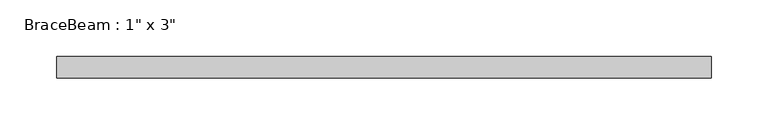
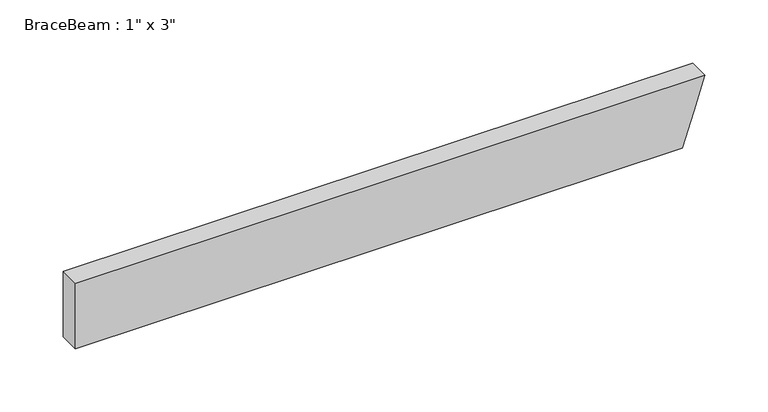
"""IFC4 building model written with IfcOpenShell, lengths in millimetres: beam geometry."""

from ifc_helpers import new_model, si_unit, origin, place, context, project, spatial, faceted_brep, source, transform, mapped, element, save


def beam_7afcca2a(model_context):
    return source(origin(), model_context, "Body", "Brep", [
        faceted_brep([(-283.7925097, -9.525, -31.75), (-283.7925097, 9.525, -31.75), (271.7812927, 9.525, -31.75), (271.7812927, -9.525, -31.75), (-283.7925097, 9.525, 31.75), (292.5069871, 9.525, 31.75), (282.1441399, 9.525, 0.0), (-283.7925097, -9.525, 31.75), (292.5069871, -9.525, 31.75), (282.1441399, -9.525, 0.0)], [[[0, 1, 2, 3]], [[1, 4, 5, 6, 2]], [[4, 7, 8, 5]], [[7, 0, 3, 9, 8]], [[7, 4, 1, 0]], [[5, 8, 9, 3, 2, 6]]]),
    ])


if __name__ == "__main__":
    model = new_model("IFC4")
    model_context = context("Model", 3, world=origin())
    ifc_project = project(units=[si_unit("LENGTHUNIT", "METRE", prefix="MILLI")], contexts=[model_context])
    site = spatial("IfcSite", under=ifc_project)
    building = spatial("IfcBuilding", under=site)
    placement = place(None, origin())
    beam_shape = beam_7afcca2a(model_context)
    element("IfcBeam", 1, ObjectType="BraceBeam : 1\" x 3\"", at=placement, inside=building, context=model_context, shape_type="MappedRepresentation", body=[
        mapped(beam_shape, transform((0.0, 0.0, 0.0), x_axis=(1.0, 0.0, 0.0), y_axis=(0.0, 1.0, 0.0), z_axis=(0.0, 0.0, 1.0))),
    ])
    save(model, "model.ifc")
